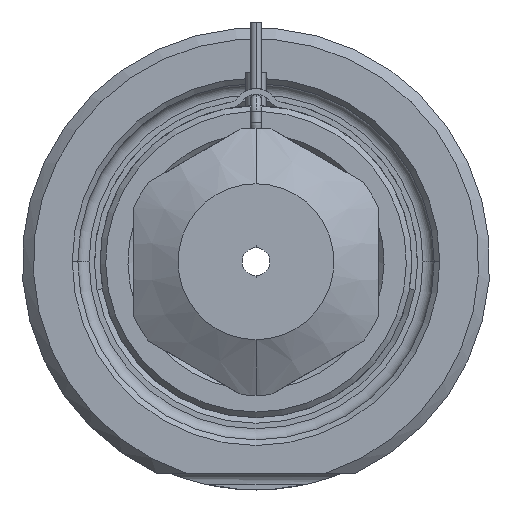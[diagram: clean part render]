
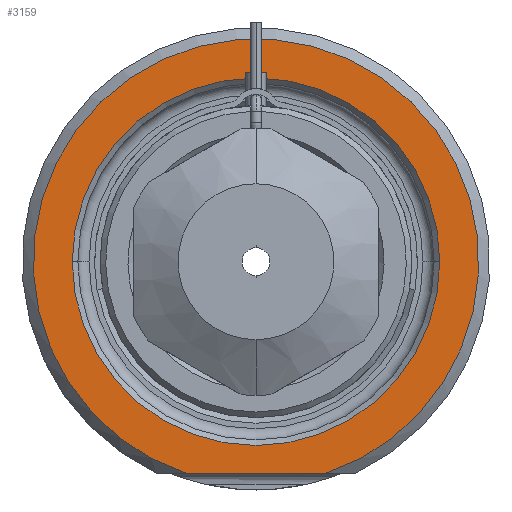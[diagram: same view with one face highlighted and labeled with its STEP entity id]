
A CAD part, front view. The second image highlights one B-rep face of the part: STEP entity #3159.
In plain terms, the highlighted planar face has unit normal (0, -1, 0).
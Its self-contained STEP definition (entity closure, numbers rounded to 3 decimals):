
#1=DIRECTION('',(1.,0.,0.));
#2=VECTOR('',#1,12.49);
#3=CARTESIAN_POINT('',(-6.245,0.,-19.));
#4=LINE('',#3,#2);
#5=CARTESIAN_POINT('',(0.,0.,0.));
#6=DIRECTION('',(0.,1.,0.));
#7=DIRECTION('',(-1.,0.,0.));
#8=AXIS2_PLACEMENT_3D('',#5,#6,#7);
#10=CARTESIAN_POINT('',(0.,0.,0.));
#11=DIRECTION('',(0.,1.,0.));
#12=DIRECTION('',(1.,0.,0.));
#13=AXIS2_PLACEMENT_3D('',#10,#11,#12);
#119=CARTESIAN_POINT('',(0.,0.,0.));
#120=DIRECTION('',(0.,-1.,0.));
#121=DIRECTION('',(0.312,0.,-0.95));
#122=AXIS2_PLACEMENT_3D('',#119,#120,#121);
#2623=CARTESIAN_POINT('',(-16.5,0.,0.));
#2624=CARTESIAN_POINT('',(16.5,0.,0.));
#2625=VERTEX_POINT('',#2623);
#2626=VERTEX_POINT('',#2624);
#2677=CARTESIAN_POINT('',(-6.245,0.,-19.));
#2678=CARTESIAN_POINT('',(6.245,0.,-19.));
#2679=VERTEX_POINT('',#2677);
#2680=VERTEX_POINT('',#2678);
#3142=CARTESIAN_POINT('',(0.,0.,0.));
#3143=DIRECTION('',(0.,-1.,0.));
#3144=DIRECTION('',(1.,0.,0.));
#3145=AXIS2_PLACEMENT_3D('',#3142,#3143,#3144);
#3146=PLANE('',#3145);
#3148=ORIENTED_EDGE('',*,*,#3147,.F.);
#3150=ORIENTED_EDGE('',*,*,#3149,.F.);
#3151=EDGE_LOOP('',(#3148,#3150));
#3152=FACE_OUTER_BOUND('',#3151,.F.);
#3154=ORIENTED_EDGE('',*,*,#3153,.F.);
#3156=ORIENTED_EDGE('',*,*,#3155,.F.);
#3157=EDGE_LOOP('',(#3154,#3156));
#3158=FACE_BOUND('',#3157,.F.);
#3159=ADVANCED_FACE('',(#3152,#3158),#3146,.T.);
#9=CIRCLE('',#8,16.5);
#14=CIRCLE('',#13,16.5);
#123=CIRCLE('',#122,20.);
#3147=EDGE_CURVE('',#2679,#2680,#4,.T.);
#3149=EDGE_CURVE('',#2680,#2679,#123,.T.);
#3153=EDGE_CURVE('',#2625,#2626,#9,.T.);
#3155=EDGE_CURVE('',#2626,#2625,#14,.T.);
